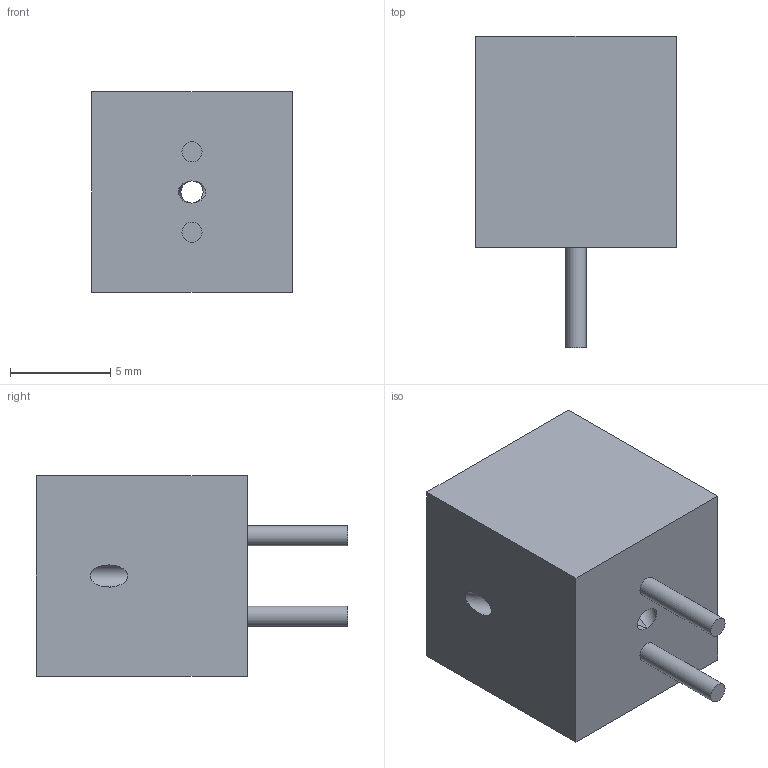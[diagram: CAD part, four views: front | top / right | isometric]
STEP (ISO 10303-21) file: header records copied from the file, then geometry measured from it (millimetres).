
FILE_DESCRIPTION(/* description */ (''),/* implementation_level */ '2;1');
FILE_NAME(/* name */ 'Supp_Fibra_1mm_inclinato.step',/* time_stamp */ '2023-03-13T17:22:16+01:00',/* author */ (''),/* organization */ (''),/* preprocessor_version */ 'ST-DEVELOPER v19.2',/* originating_system */ 'Autodesk Translation Framework v11.17.0.187',/* authorisation */ '');
FILE_SCHEMA (('AUTOMOTIVE_DESIGN { 1 0 10303 214 3 1 1 }'));
Length unit declared in the file: millimetre
Products named in the file (1): _Supp_Fibra_1mm_inclinato
Bounding box: 10 x 15.5 x 10 mm (x, y, z)
Volume: 1033.2 mm3; surface area: 732.8 mm2
Topology: 1 solids, 1 shells, 13 faces, 30 edges, 19 vertices
Faces by surface type: plane 8, cylinder 5
Full cylindrical faces by diameter (mm): 1 x2, 1.1 x3
Entity records: 418 total; most frequent: DIRECTION 71, CARTESIAN_POINT 63, ORIENTED_EDGE 60, EDGE_CURVE 30, AXIS2_PLACEMENT_3D 27, EDGE_LOOP 19, VERTEX_POINT 19, LINE 17
